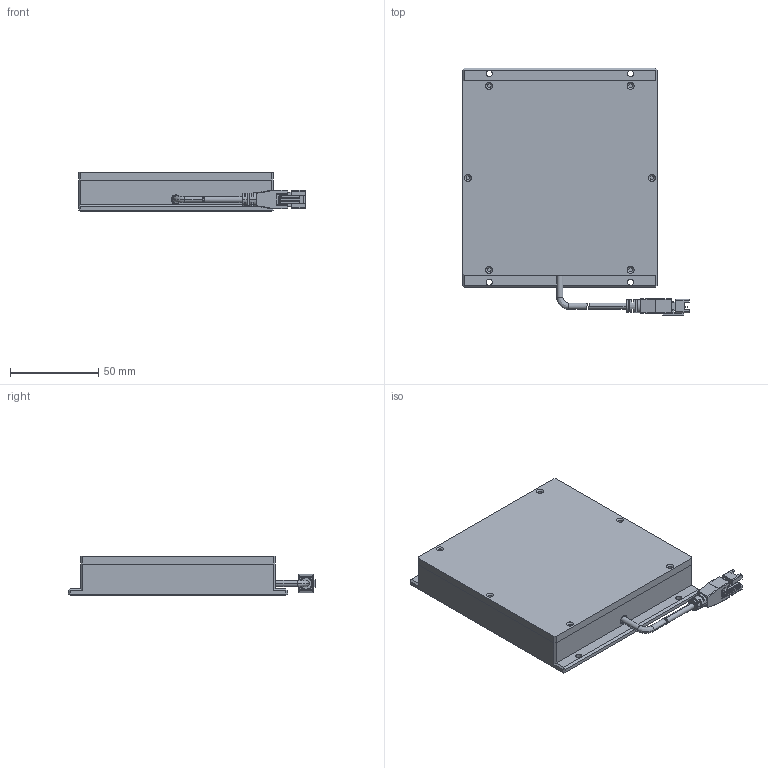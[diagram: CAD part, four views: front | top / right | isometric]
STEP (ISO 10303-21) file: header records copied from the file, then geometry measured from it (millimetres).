
FILE_DESCRIPTION (( 'STEP AP203' ), '1' );
FILE_NAME ('CRT-PFLD100100-¼òÒ×3DÍ¼.STEP', '2021-11-27T01:34:07', ( 'Admin' ), ( '' ), 'SwSTEP 2.0', 'SolidWorks 2018', '' );
FILE_SCHEMA (( 'CONFIG_CONTROL_DESIGN' ));
Length unit declared in the file: millimetre
Products named in the file (1): CRT-PFLD100100-潠眢3D芞
Bounding box: 128.23 x 139.95 x 22.5 mm (x, y, z)
Surface area: 39426.9 mm2 (no closed solid volume)
Topology: 0 solids, 4 shells, 268 faces, 738 edges, 461 vertices
Faces by surface type: plane 154, cylinder 76, bspline 19, cone 16, torus 3
Entity records: 8930 total; most frequent: CARTESIAN_POINT 2190, DIRECTION 1378, ORIENTED_EDGE 1338, EDGE_CURVE 730, VECTOR 480, LINE 480, VERTEX_POINT 461, AXIS2_PLACEMENT_3D 449
